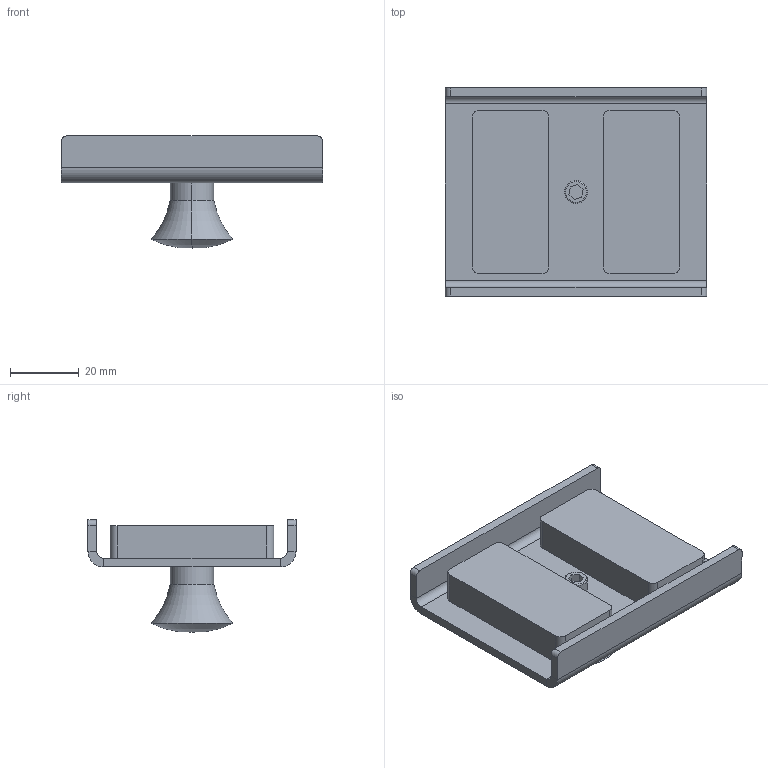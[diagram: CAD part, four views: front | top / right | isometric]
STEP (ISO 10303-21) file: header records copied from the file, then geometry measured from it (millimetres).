
FILE_DESCRIPTION (( 'STEP AP203' ), '1' );
FILE_NAME ('PH2102.STEP', '2018-10-29T14:11:07', ( '' ), ( '' ), 'SwSTEP 2.0', 'SolidWorks 2015', '' );
FILE_SCHEMA (( 'CONFIG_CONTROL_DESIGN' ));
Length unit declared in the file: inch
Products named in the file (1): PH2102
Bounding box: 76.2 x 60.71 x 32.7 mm (x, y, z)
Volume: 39674 mm3; surface area: 21737 mm2
Topology: 5 solids, 5 shells, 143 faces, 302 edges, 171 vertices
Faces by surface type: cylinder 50, plane 43, cone 40, torus 10
Entity records: 3829 total; most frequent: DIRECTION 724, CARTESIAN_POINT 615, ORIENTED_EDGE 600, EDGE_CURVE 300, AXIS2_PLACEMENT_3D 280, VERTEX_POINT 171, LINE 164, VECTOR 164
